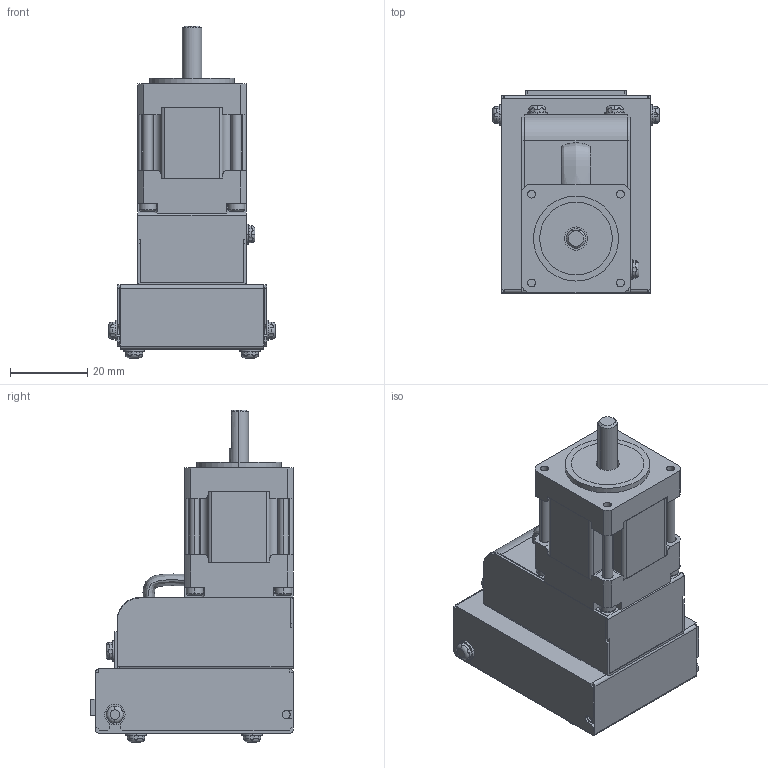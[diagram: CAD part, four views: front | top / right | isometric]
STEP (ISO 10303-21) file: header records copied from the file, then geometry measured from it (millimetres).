
FILE_DESCRIPTION (( 'STEP AP214' ), '1' );
FILE_NAME ('CM1-X-11S30.STEP', '2009-07-30T13:23:46', ( '' ), ( '' ), 'SwSTEP 2.0', 'SolidWorks 2009', '' );
FILE_SCHEMA (( 'AUTOMOTIVE_DESIGN' ));
Length unit declared in the file: millimetre
Products named in the file (1): CM1-X-11S30
Bounding box: 43.2 x 52.3 x 85.9 mm (x, y, z)
Volume: 60590.9 mm3; surface area: 32597.7 mm2
Topology: 30 solids, 30 shells, 1057 faces, 2724 edges, 1762 vertices
Faces by surface type: plane 698, cylinder 245, bspline 83, torus 28, cone 3
Entity records: 42897 total; most frequent: CARTESIAN_POINT 11667, ORIENTED_EDGE 5448, DIRECTION 4958, EDGE_CURVE 2724, LINE 2000, VECTOR 2000, VERTEX_POINT 1762, AXIS2_PLACEMENT_3D 1479
